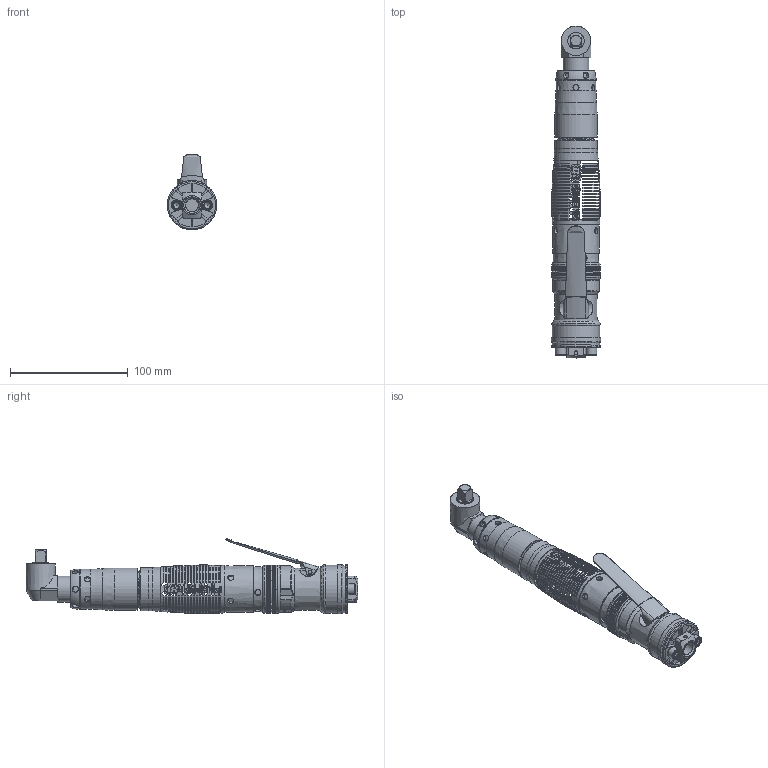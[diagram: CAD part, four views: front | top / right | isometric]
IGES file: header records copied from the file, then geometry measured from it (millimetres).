
Global section: file name: C:\Documents and Settings\jyoung\Desktop\QA4AALD020NP25S06.igs; native system: Unigraphics Version X V2.0; preprocessor: Unigraphics NX IGES V2.0; date: 20051024.141147; units: millimetre
Bounding box: 42 x 281.96 x 64.44 mm (x, y, z)
Surface area: 60974.7 mm2 (no closed solid volume)
Topology: 0 solids, 1 shells, 2756 faces, 25253 edges, 25111 vertices
Faces by surface type: extrusion 1132, revolution 907, bspline 717
